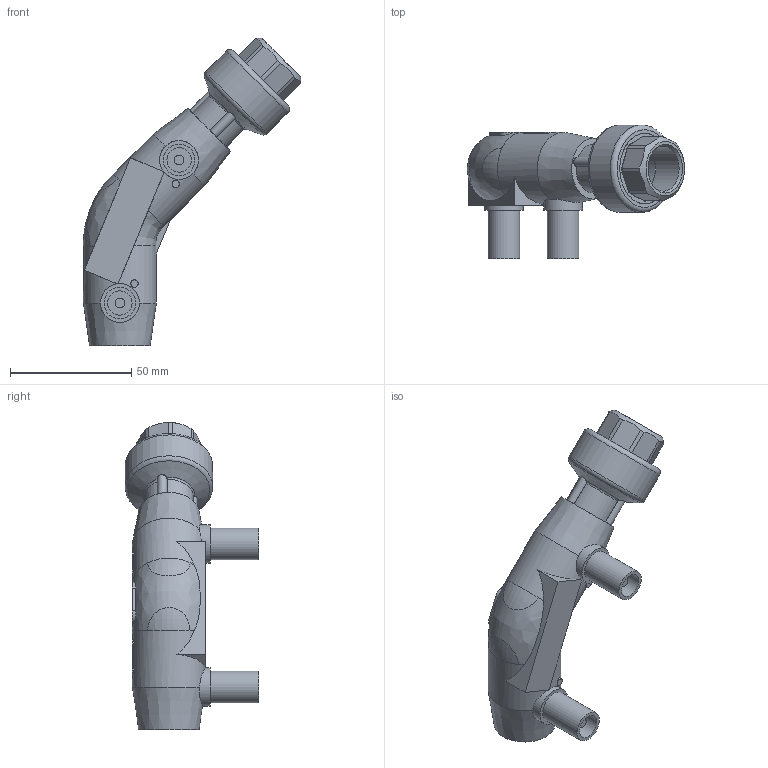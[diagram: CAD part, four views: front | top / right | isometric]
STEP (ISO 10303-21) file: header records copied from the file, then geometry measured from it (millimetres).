
FILE_DESCRIPTION(/* description */ ('Unknown'),/* implementation_level */ '2;1');
FILE_NAME(/* name */ 'GE4TFP020C',/* time_stamp */ '2021-03-02T15:05:28+01:00',/* author */ ('Unknown'),/* organization */ ('Unknown'),/* preprocessor_version */ 'ST-DEVELOPER v16.7',/* originating_system */ 'Solid Edge',/* authorisation */ 'Unknown');
FILE_SCHEMA (('TECHNICAL_DATA_PACKAGING','AUTOMOTIVE_DESIGN {1 0 10303 214 3 1 1}'));
Length unit declared in the file: millimetre
Products named in the file (5): GE4TFP020C; GE4P020C; RTOFP020C; Parte PE 020; IOF020C
Assembly tree (4 placements, depth 3):
  GE4TFP020C
    GE4P020C
    RTOFP020C
      Parte PE 020
      IOF020C
Bounding box: 89.41 x 54.96 x 126.4 mm (x, y, z)
Volume: 68057.3 mm3; surface area: 36318.8 mm2
Topology: 3 solids, 3 shells, 274 faces, 670 edges, 415 vertices
Faces by surface type: plane 132, cylinder 80, torus 39, bspline 17, cone 6
Full cylindrical faces by diameter (mm): 3 x2, 4 x2, 10 x2, 13 x2, 14 x1, 16 x2, 17.5 x2, 18.5 x3, 18.631 x1, 20 x3, 21.5 x2, 25 x4, 26.4 x2, 29 x8, 36 x1
Entity records: 9510 total; most frequent: CARTESIAN_POINT 2599, DIRECTION 1306, ORIENTED_EDGE 1182, EDGE_CURVE 591, AXIS2_PLACEMENT_3D 543, VERTEX_POINT 398, EDGE_LOOP 355, FACE_BOUND 355
